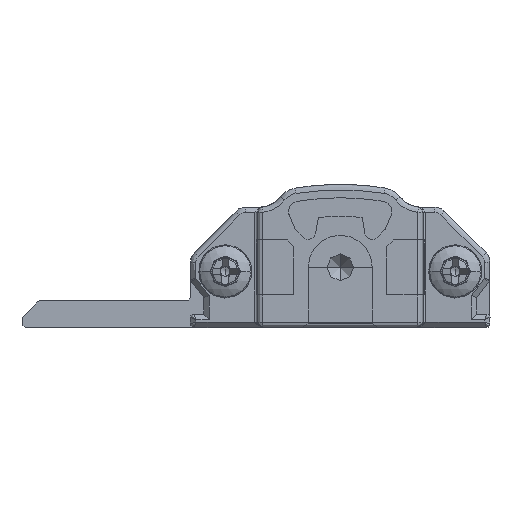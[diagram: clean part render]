
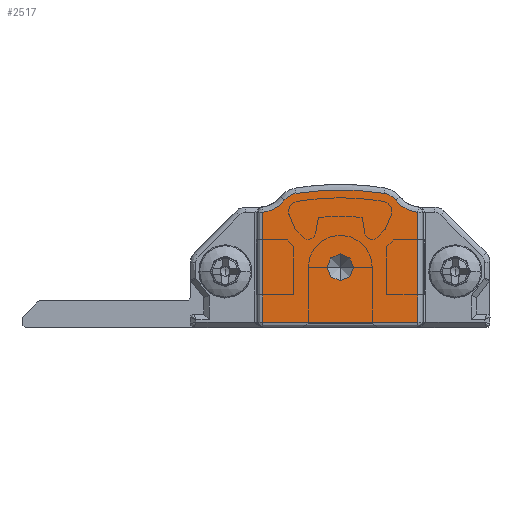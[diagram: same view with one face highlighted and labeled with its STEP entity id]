
A CAD part, front view. The second image highlights one B-rep face of the part: STEP entity #2517.
In plain terms, the highlighted planar face has unit normal (0, -1, 0).
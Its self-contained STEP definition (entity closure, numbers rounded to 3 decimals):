
#238 = VERTEX_POINT ( 'NONE', #14362 ) ;
#452 = CARTESIAN_POINT ( 'NONE',  ( 11.2, -15., 3.5 ) ) ;
#779 = EDGE_CURVE ( 'NONE', #10120, #8220, #6747, .T. ) ;
#1228 = VERTEX_POINT ( 'NONE', #5588 ) ;
#1628 = DIRECTION ( 'NONE',  ( 0., 1., 0. ) ) ;
#1935 = PLANE ( 'NONE',  #16492 ) ;
#2213 = ORIENTED_EDGE ( 'NONE', *, *, #779, .T. ) ;
#2455 = EDGE_CURVE ( 'NONE', #1228, #31127, #29207, .T. ) ;
#2517 = ADVANCED_FACE ( 'NONE', ( #23507, #4140 ), #1935, .T. ) ;
#3291 = CARTESIAN_POINT ( 'NONE',  ( 17., -15., 0.4 ) ) ;
#4140 = FACE_BOUND ( 'NONE', #26229, .T. ) ;
#4361 = EDGE_CURVE ( 'NONE', #21337, #10120, #27171, .T. ) ;
#4423 = CARTESIAN_POINT ( 'NONE',  ( 11.2, -15., 4.5 ) ) ;
#4517 = CARTESIAN_POINT ( 'NONE',  ( 17., -15., 0.4 ) ) ;
#4672 = DIRECTION ( 'NONE',  ( 1., 0., 0. ) ) ;
#5024 = CARTESIAN_POINT ( 'NONE',  ( 7.068, -15., 9.541 ) ) ;
#5588 = CARTESIAN_POINT ( 'NONE',  ( 7.892, -15., 10.034 ) ) ;
#5833 = CARTESIAN_POINT ( 'NONE',  ( 11.2, -15., 4.5 ) ) ;
#6135 = DIRECTION ( 'NONE',  ( 0., -1., 0. ) ) ;
#6344 = ORIENTED_EDGE ( 'NONE', *, *, #25557, .T. ) ;
#6747 = LINE ( 'NONE', #4517, #8050 ) ;
#6844 = CIRCLE ( 'NONE', #25590, 1. ) ;
#7776 = DIRECTION ( 'NONE',  ( 0., -1., 0. ) ) ;
#8050 = VECTOR ( 'NONE', #4672, 1000. ) ;
#8220 = VERTEX_POINT ( 'NONE', #3291 ) ;
#10120 = VERTEX_POINT ( 'NONE', #24554 ) ;
#10162 = CARTESIAN_POINT ( 'NONE',  ( 17., -15., 8.612 ) ) ;
#10549 = DIRECTION ( 'NONE',  ( 0., -1., 0. ) ) ;
#10852 = ORIENTED_EDGE ( 'NONE', *, *, #30774, .T. ) ;
#10923 = CARTESIAN_POINT ( 'NONE',  ( 5.4, -15., 0.4 ) ) ;
#11803 = EDGE_CURVE ( 'NONE', #8220, #12378, #29876, .T. ) ;
#12005 = VERTEX_POINT ( 'NONE', #13335 ) ;
#12080 = CIRCLE ( 'NONE', #30355, 20.676 ) ;
#12277 = CIRCLE ( 'NONE', #28496, 1.3 ) ;
#12378 = VERTEX_POINT ( 'NONE', #28033 ) ;
#12749 = AXIS2_PLACEMENT_3D ( 'NONE', #5833, #6135, #12845 ) ;
#12834 = ORIENTED_EDGE ( 'NONE', *, *, #4361, .T. ) ;
#12845 = DIRECTION ( 'NONE',  ( 0., 0., -1. ) ) ;
#13335 = CARTESIAN_POINT ( 'NONE',  ( 15.332, -15., 9.541 ) ) ;
#13453 = AXIS2_PLACEMENT_3D ( 'NONE', #19063, #28748, #28904 ) ;
#13550 = ORIENTED_EDGE ( 'NONE', *, *, #19696, .T. ) ;
#13583 = CARTESIAN_POINT ( 'NONE',  ( 17.238, -15., 11. ) ) ;
#13878 = DIRECTION ( 'NONE',  ( 0., -1., 0. ) ) ;
#14238 = ORIENTED_EDGE ( 'NONE', *, *, #11803, .T. ) ;
#14362 = CARTESIAN_POINT ( 'NONE',  ( 11.2, -15., 5.5 ) ) ;
#14606 = EDGE_CURVE ( 'NONE', #12005, #16217, #12277, .T. ) ;
#15390 = DIRECTION ( 'NONE',  ( 0., 0., 1. ) ) ;
#16217 = VERTEX_POINT ( 'NONE', #19693 ) ;
#16492 = AXIS2_PLACEMENT_3D ( 'NONE', #21167, #13878, #18809 ) ;
#16628 = VECTOR ( 'NONE', #15390, 1000. ) ;
#17817 = CARTESIAN_POINT ( 'NONE',  ( 14.3, -15., 8.75 ) ) ;
#18570 = AXIS2_PLACEMENT_3D ( 'NONE', #20518, #10549, #22583 ) ;
#18809 = DIRECTION ( 'NONE',  ( 0., 0., -1. ) ) ;
#19063 = CARTESIAN_POINT ( 'NONE',  ( 5.162, -15., 11. ) ) ;
#19693 = CARTESIAN_POINT ( 'NONE',  ( 14.508, -15., 10.034 ) ) ;
#19696 = EDGE_CURVE ( 'NONE', #16217, #1228, #12080, .T. ) ;
#19775 = DIRECTION ( 'NONE',  ( 0., 0., -1. ) ) ;
#19972 = CARTESIAN_POINT ( 'NONE',  ( 5.4, -15., 8.612 ) ) ;
#20518 = CARTESIAN_POINT ( 'NONE',  ( 8.1, -15., 8.75 ) ) ;
#20999 = DIRECTION ( 'NONE',  ( 0., 0., -1. ) ) ;
#21167 = CARTESIAN_POINT ( 'NONE',  ( 22.15, -15., 3.606 ) ) ;
#21337 = VERTEX_POINT ( 'NONE', #19972 ) ;
#21408 = EDGE_CURVE ( 'NONE', #238, #23403, #27454, .T. ) ;
#21986 = DIRECTION ( 'NONE',  ( 0., -1., 0. ) ) ;
#22185 = ORIENTED_EDGE ( 'NONE', *, *, #29870, .F. ) ;
#22583 = DIRECTION ( 'NONE',  ( 0., 0., -1. ) ) ;
#23162 = EDGE_LOOP ( 'NONE', ( #14238, #10852, #24330, #13550, #24033, #6344, #12834, #2213 ) ) ;
#23403 = VERTEX_POINT ( 'NONE', #452 ) ;
#23507 = FACE_OUTER_BOUND ( 'NONE', #23162, .T. ) ;
#23621 = DIRECTION ( 'NONE',  ( 0., -1., 0. ) ) ;
#24033 = ORIENTED_EDGE ( 'NONE', *, *, #2455, .T. ) ;
#24330 = ORIENTED_EDGE ( 'NONE', *, *, #14606, .T. ) ;
#24554 = CARTESIAN_POINT ( 'NONE',  ( 5.4, -15., 0.4 ) ) ;
#24585 = CIRCLE ( 'NONE', #13453, 2.4 ) ;
#24666 = AXIS2_PLACEMENT_3D ( 'NONE', #13583, #1628, #20999 ) ;
#24978 = CARTESIAN_POINT ( 'NONE',  ( 11.2, -15., -10.376 ) ) ;
#25557 = EDGE_CURVE ( 'NONE', #31127, #21337, #24585, .T. ) ;
#25590 = AXIS2_PLACEMENT_3D ( 'NONE', #4423, #23621, #30842 ) ;
#26229 = EDGE_LOOP ( 'NONE', ( #22185, #30930 ) ) ;
#26713 = CIRCLE ( 'NONE', #24666, 2.4 ) ;
#27171 = LINE ( 'NONE', #10923, #29193 ) ;
#27454 = CIRCLE ( 'NONE', #12749, 1. ) ;
#28033 = CARTESIAN_POINT ( 'NONE',  ( 17., -15., 8.612 ) ) ;
#28496 = AXIS2_PLACEMENT_3D ( 'NONE', #17817, #7776, #29392 ) ;
#28748 = DIRECTION ( 'NONE',  ( 0., 1., 0. ) ) ;
#28904 = DIRECTION ( 'NONE',  ( 0., 0., -1. ) ) ;
#29193 = VECTOR ( 'NONE', #30325, 1000. ) ;
#29207 = CIRCLE ( 'NONE', #18570, 1.3 ) ;
#29392 = DIRECTION ( 'NONE',  ( 0., 0., -1. ) ) ;
#29870 = EDGE_CURVE ( 'NONE', #23403, #238, #6844, .T. ) ;
#29876 = LINE ( 'NONE', #10162, #16628 ) ;
#30325 = DIRECTION ( 'NONE',  ( 0., 0., -1. ) ) ;
#30355 = AXIS2_PLACEMENT_3D ( 'NONE', #24978, #21986, #19775 ) ;
#30774 = EDGE_CURVE ( 'NONE', #12378, #12005, #26713, .T. ) ;
#30842 = DIRECTION ( 'NONE',  ( 0., 0., -1. ) ) ;
#30930 = ORIENTED_EDGE ( 'NONE', *, *, #21408, .F. ) ;
#31127 = VERTEX_POINT ( 'NONE', #5024 ) ;
